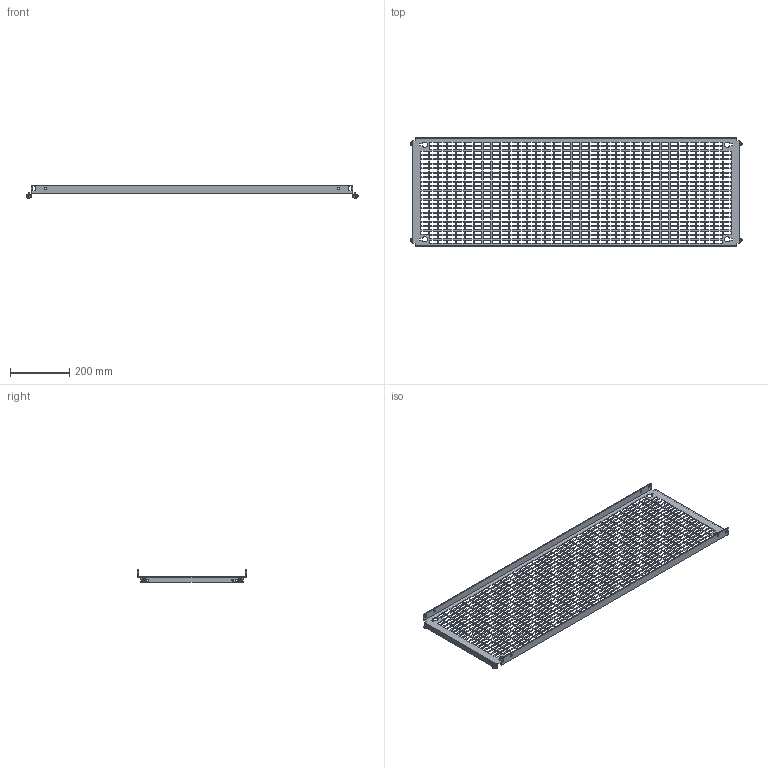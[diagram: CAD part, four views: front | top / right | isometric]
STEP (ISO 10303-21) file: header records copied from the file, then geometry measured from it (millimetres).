
FILE_DESCRIPTION(('Open CASCADE Model'),'2;1');
FILE_NAME('Open CASCADE Shape Model','2025-02-19T16:50:46',('Author'),( 'Open CASCADE'),'Open CASCADE STEP processor 7.8','Open CASCADE 7.8' ,'Unknown');
FILE_SCHEMA(('AUTOMOTIVE_DESIGN { 1 0 10303 214 1 1 1 1 }'));
Length unit declared in the file: millimetre
Products named in the file (4): Compound1; Solid1; Solid2; Solid3
Assembly tree (9 placements, depth 2):
  Compound1
    Solid1
    Solid2  x4
    Solid3  x4
Bounding box: 1119 x 369 x 42.59 mm (x, y, z)
Volume: 600039.9 mm3; surface area: 637524.4 mm2
Topology: 9 solids, 9 shells, 3543 faces, 10437 edges, 6923 vertices
Faces by surface type: plane 3370, cone 68, bspline 63, cylinder 30, torus 12
Full cylindrical faces by diameter (mm): 5 x4, 6 x8, 7 x14
Entity records: 115930 total; most frequent: CARTESIAN_POINT 21749, ORIENTED_EDGE 20196, DIRECTION 16796, EDGE_CURVE 10098, LINE 9910, VECTOR 9910, VERTEX_POINT 6725, FACE_BOUND 5035
